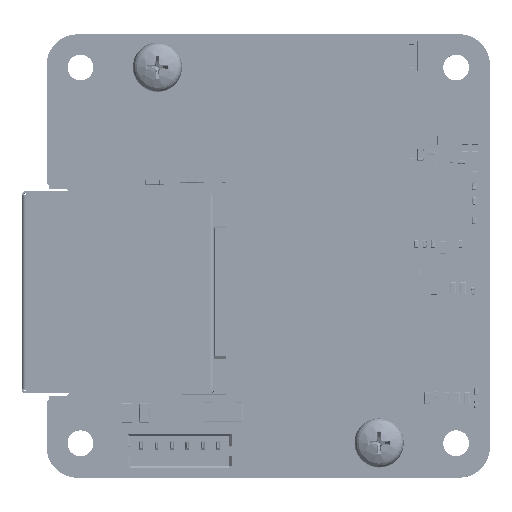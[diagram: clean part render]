
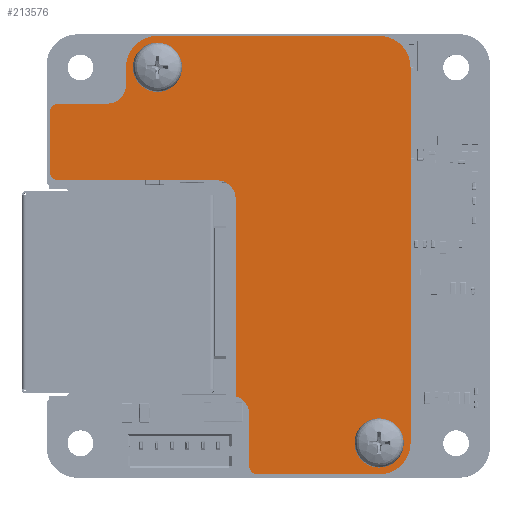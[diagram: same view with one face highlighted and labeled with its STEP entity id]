
A CAD part, top view. The second image highlights one B-rep face of the part: STEP entity #213576.
In plain terms, the highlighted planar face has unit normal (0, 0, 1).
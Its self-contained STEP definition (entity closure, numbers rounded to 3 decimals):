
#922=FACE_BOUND('',#44461,.T.);
#923=FACE_BOUND('',#44462,.T.);
#13649=CIRCLE('',#236983,0.7);
#13650=CIRCLE('',#236986,0.7);
#13651=CIRCLE('',#236989,1.499);
#13652=CIRCLE('',#236992,2.55);
#13653=CIRCLE('',#236995,2.55);
#13654=CIRCLE('',#236998,2.55);
#13655=CIRCLE('',#237001,0.7);
#13656=CIRCLE('',#237004,1.501);
#13657=CIRCLE('',#237007,1.499);
#13658=CIRCLE('',#237010,1.15);
#13659=CIRCLE('',#237012,1.15);
#31141=FACE_OUTER_BOUND('',#44460,.T.);
#44460=EDGE_LOOP('',(#181705,#181706,#181707,#181708,#181709,#181710,#181711,
#181712,#181713,#181714,#181715,#181716,#181717,#181718,#181719,#181720,
#181721,#181722));
#44461=EDGE_LOOP('',(#181723));
#44462=EDGE_LOOP('',(#181724));
#62712=LINE('',#359388,#80948);
#62715=LINE('',#359396,#80951);
#62718=LINE('',#359404,#80954);
#62721=LINE('',#359412,#80957);
#62724=LINE('',#359420,#80960);
#62727=LINE('',#359428,#80963);
#62730=LINE('',#359436,#80966);
#62733=LINE('',#359444,#80969);
#62736=LINE('',#359451,#80972);
#80948=VECTOR('',#300436,1.);
#80951=VECTOR('',#300445,1.);
#80954=VECTOR('',#300454,1.);
#80957=VECTOR('',#300463,1.);
#80960=VECTOR('',#300472,1.);
#80963=VECTOR('',#300481,1.);
#80966=VECTOR('',#300490,1.);
#80969=VECTOR('',#300499,1.);
#80972=VECTOR('',#300508,1.);
#97262=VERTEX_POINT('',#359381);
#97263=VERTEX_POINT('',#359383);
#97264=VERTEX_POINT('',#359387);
#97265=VERTEX_POINT('',#359391);
#97266=VERTEX_POINT('',#359395);
#97267=VERTEX_POINT('',#359399);
#97268=VERTEX_POINT('',#359403);
#97269=VERTEX_POINT('',#359407);
#97270=VERTEX_POINT('',#359411);
#97271=VERTEX_POINT('',#359415);
#97272=VERTEX_POINT('',#359419);
#97273=VERTEX_POINT('',#359423);
#97274=VERTEX_POINT('',#359427);
#97275=VERTEX_POINT('',#359431);
#97276=VERTEX_POINT('',#359435);
#97277=VERTEX_POINT('',#359439);
#97278=VERTEX_POINT('',#359443);
#97279=VERTEX_POINT('',#359447);
#97280=VERTEX_POINT('',#359453);
#97281=VERTEX_POINT('',#359457);
#125581=EDGE_CURVE('',#97262,#97263,#13649,.T.);
#125583=EDGE_CURVE('',#97263,#97264,#62712,.T.);
#125585=EDGE_CURVE('',#97264,#97265,#13650,.T.);
#125587=EDGE_CURVE('',#97265,#97266,#62715,.T.);
#125589=EDGE_CURVE('',#97266,#97267,#13651,.T.);
#125591=EDGE_CURVE('',#97267,#97268,#62718,.T.);
#125593=EDGE_CURVE('',#97268,#97269,#13652,.T.);
#125595=EDGE_CURVE('',#97269,#97270,#62721,.T.);
#125597=EDGE_CURVE('',#97270,#97271,#13653,.T.);
#125599=EDGE_CURVE('',#97271,#97272,#62724,.T.);
#125601=EDGE_CURVE('',#97272,#97273,#13654,.T.);
#125603=EDGE_CURVE('',#97273,#97274,#62727,.T.);
#125605=EDGE_CURVE('',#97274,#97275,#13655,.T.);
#125607=EDGE_CURVE('',#97275,#97276,#62730,.T.);
#125609=EDGE_CURVE('',#97276,#97277,#13656,.T.);
#125611=EDGE_CURVE('',#97277,#97278,#62733,.T.);
#125613=EDGE_CURVE('',#97278,#97279,#13657,.T.);
#125615=EDGE_CURVE('',#97279,#97262,#62736,.T.);
#125616=EDGE_CURVE('',#97280,#97280,#13658,.T.);
#125618=EDGE_CURVE('',#97281,#97281,#13659,.T.);
#181705=ORIENTED_EDGE('',*,*,#125581,.F.);
#181706=ORIENTED_EDGE('',*,*,#125615,.F.);
#181707=ORIENTED_EDGE('',*,*,#125613,.F.);
#181708=ORIENTED_EDGE('',*,*,#125611,.F.);
#181709=ORIENTED_EDGE('',*,*,#125609,.F.);
#181710=ORIENTED_EDGE('',*,*,#125607,.F.);
#181711=ORIENTED_EDGE('',*,*,#125605,.F.);
#181712=ORIENTED_EDGE('',*,*,#125603,.F.);
#181713=ORIENTED_EDGE('',*,*,#125601,.F.);
#181714=ORIENTED_EDGE('',*,*,#125599,.F.);
#181715=ORIENTED_EDGE('',*,*,#125597,.F.);
#181716=ORIENTED_EDGE('',*,*,#125595,.F.);
#181717=ORIENTED_EDGE('',*,*,#125593,.F.);
#181718=ORIENTED_EDGE('',*,*,#125591,.F.);
#181719=ORIENTED_EDGE('',*,*,#125589,.F.);
#181720=ORIENTED_EDGE('',*,*,#125587,.F.);
#181721=ORIENTED_EDGE('',*,*,#125585,.F.);
#181722=ORIENTED_EDGE('',*,*,#125583,.F.);
#181723=ORIENTED_EDGE('',*,*,#125616,.F.);
#181724=ORIENTED_EDGE('',*,*,#125618,.F.);
#188337=PLANE('',#237013);
#213576=ADVANCED_FACE('',(#31141,#922,#923),#188337,.F.);
#236983=AXIS2_PLACEMENT_3D('',#359384,#300431,#300432);
#236986=AXIS2_PLACEMENT_3D('',#359392,#300440,#300441);
#236989=AXIS2_PLACEMENT_3D('',#359400,#300449,#300450);
#236992=AXIS2_PLACEMENT_3D('',#359408,#300458,#300459);
#236995=AXIS2_PLACEMENT_3D('',#359416,#300467,#300468);
#236998=AXIS2_PLACEMENT_3D('',#359424,#300476,#300477);
#237001=AXIS2_PLACEMENT_3D('',#359432,#300485,#300486);
#237004=AXIS2_PLACEMENT_3D('',#359440,#300494,#300495);
#237007=AXIS2_PLACEMENT_3D('',#359448,#300503,#300504);
#237010=AXIS2_PLACEMENT_3D('',#359454,#300511,#300512);
#237012=AXIS2_PLACEMENT_3D('',#359458,#300516,#300517);
#237013=AXIS2_PLACEMENT_3D('',#359460,#300519,#300520);
#300431=DIRECTION('center_axis',(0.,0.,-1.));
#300432=DIRECTION('ref_axis',(0.,-1.,0.));
#300436=DIRECTION('',(0.,1.,0.));
#300440=DIRECTION('center_axis',(0.,0.,-1.));
#300441=DIRECTION('ref_axis',(-1.,0.,0.));
#300445=DIRECTION('',(1.,0.,0.));
#300449=DIRECTION('center_axis',(0.,0.,1.));
#300450=DIRECTION('ref_axis',(-0.001,-1.,
0.));
#300454=DIRECTION('',(0.,1.,0.));
#300458=DIRECTION('center_axis',(0.,0.,-1.));
#300459=DIRECTION('ref_axis',(-1.,0.,0.));
#300463=DIRECTION('',(1.,0.,0.));
#300467=DIRECTION('center_axis',(0.,0.,-1.));
#300468=DIRECTION('ref_axis',(0.,1.,0.));
#300472=DIRECTION('',(0.,-1.,0.));
#300476=DIRECTION('center_axis',(0.,0.,-1.));
#300477=DIRECTION('ref_axis',(1.,0.,0.));
#300481=DIRECTION('',(-1.,0.,0.));
#300485=DIRECTION('center_axis',(0.,0.,-1.));
#300486=DIRECTION('ref_axis',(0.,-1.,0.));
#300490=DIRECTION('',(0.,1.,0.));
#300494=DIRECTION('center_axis',(0.,0.,1.));
#300495=DIRECTION('ref_axis',(1.,0.,0.));
#300499=DIRECTION('',(0.,1.,0.));
#300503=DIRECTION('center_axis',(0.,0.,1.));
#300504=DIRECTION('ref_axis',(1.,-0.001,0.));
#300508=DIRECTION('',(-1.,0.,0.));
#300511=DIRECTION('center_axis',(0.,0.,1.));
#300512=DIRECTION('ref_axis',(1.,0.,0.));
#300516=DIRECTION('center_axis',(0.,0.,1.));
#300517=DIRECTION('ref_axis',(1.,0.,0.));
#300519=DIRECTION('center_axis',(0.,0.,-1.));
#300520=DIRECTION('ref_axis',(-1.,0.,0.));
#359381=CARTESIAN_POINT('',(-26.05,21.325,0.));
#359383=CARTESIAN_POINT('',(-26.75,22.025,0.));
#359384=CARTESIAN_POINT('Origin',(-26.05,22.025,0.));
#359387=CARTESIAN_POINT('',(-26.75,26.85,0.));
#359388=CARTESIAN_POINT('',(-26.75,22.025,0.));
#359391=CARTESIAN_POINT('',(-26.05,27.55,0.));
#359392=CARTESIAN_POINT('Origin',(-26.05,26.85,0.));
#359395=CARTESIAN_POINT('',(-22.05,27.55,0.));
#359396=CARTESIAN_POINT('',(-26.05,27.55,0.));
#359399=CARTESIAN_POINT('',(-20.55,29.05,0.));
#359400=CARTESIAN_POINT('Origin',(-22.049,29.049,0.));
#359403=CARTESIAN_POINT('',(-20.55,30.5,0.));
#359404=CARTESIAN_POINT('',(-20.55,29.05,0.));
#359407=CARTESIAN_POINT('',(-18.,33.05,0.));
#359408=CARTESIAN_POINT('Origin',(-18.,30.5,0.));
#359411=CARTESIAN_POINT('',(0.,33.05,0.));
#359412=CARTESIAN_POINT('',(-18.,33.05,0.));
#359415=CARTESIAN_POINT('',(2.55,30.5,0.));
#359416=CARTESIAN_POINT('Origin',(0.,30.5,0.));
#359419=CARTESIAN_POINT('',(2.55,0.,0.));
#359420=CARTESIAN_POINT('',(2.55,30.5,0.));
#359423=CARTESIAN_POINT('',(0.,-2.55,0.));
#359424=CARTESIAN_POINT('Origin',(0.,0.,
0.));
#359427=CARTESIAN_POINT('',(-9.85,-2.55,0.));
#359428=CARTESIAN_POINT('',(0.,-2.55,0.));
#359431=CARTESIAN_POINT('',(-10.55,-1.85,0.));
#359432=CARTESIAN_POINT('Origin',(-9.85,-1.85,0.));
#359435=CARTESIAN_POINT('',(-10.55,2.35,0.));
#359436=CARTESIAN_POINT('',(-10.55,-1.85,0.));
#359439=CARTESIAN_POINT('',(-11.65,3.796,0.));
#359440=CARTESIAN_POINT('Origin',(-12.051,2.35,0.));
#359443=CARTESIAN_POINT('',(-11.65,19.825,0.));
#359444=CARTESIAN_POINT('',(-11.65,3.796,0.));
#359447=CARTESIAN_POINT('',(-13.15,21.325,0.));
#359448=CARTESIAN_POINT('Origin',(-13.149,19.826,0.));
#359451=CARTESIAN_POINT('',(-13.15,21.325,0.));
#359453=CARTESIAN_POINT('',(-19.15,30.5,0.));
#359454=CARTESIAN_POINT('Origin',(-18.,30.5,0.));
#359457=CARTESIAN_POINT('',(-1.15,0.,0.));
#359458=CARTESIAN_POINT('Origin',(0.,0.,0.));
#359460=CARTESIAN_POINT('Origin',(-8.943,17.735,0.));
